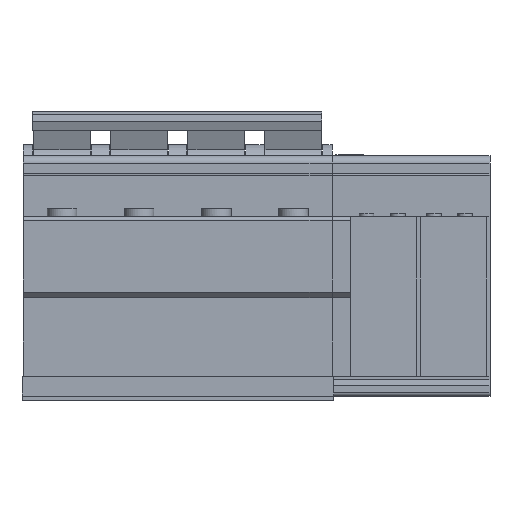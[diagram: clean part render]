
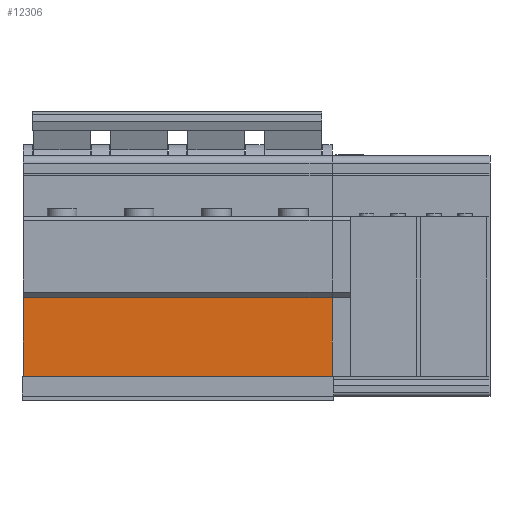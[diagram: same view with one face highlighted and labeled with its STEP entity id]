
A CAD part, front view. The second image highlights one B-rep face of the part: STEP entity #12306.
In plain terms, the highlighted planar face has unit normal (0, -1, 0).
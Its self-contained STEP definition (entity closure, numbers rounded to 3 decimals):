
#1287=FACE_OUTER_BOUND('',#2180,.T.);
#2180=EDGE_LOOP('',(#9442,#9443,#9444,#9445));
#3085=LINE('',#18937,#4298);
#3148=LINE('',#19263,#4361);
#3175=LINE('',#19489,#4388);
#3176=LINE('',#19490,#4389);
#4298=VECTOR('',#14847,10.);
#4361=VECTOR('',#15196,10.);
#4388=VECTOR('',#15479,10.);
#4389=VECTOR('',#15480,10.);
#5490=VERTEX_POINT('',#18933);
#5492=VERTEX_POINT('',#18936);
#5586=VERTEX_POINT('',#19209);
#5612=VERTEX_POINT('',#19261);
#6824=EDGE_CURVE('',#5492,#5490,#3085,.T.);
#6972=EDGE_CURVE('',#5612,#5586,#3148,.T.);
#7068=EDGE_CURVE('',#5490,#5586,#3175,.T.);
#7069=EDGE_CURVE('',#5492,#5612,#3176,.T.);
#9442=ORIENTED_EDGE('',*,*,#7068,.T.);
#9443=ORIENTED_EDGE('',*,*,#6972,.F.);
#9444=ORIENTED_EDGE('',*,*,#7069,.F.);
#9445=ORIENTED_EDGE('',*,*,#6824,.T.);
#11613=PLANE('',#13289);
#12306=ADVANCED_FACE('',(#1287),#11613,.T.);
#13289=AXIS2_PLACEMENT_3D('',#19488,#15477,#15478);
#14847=DIRECTION('',(0.,0.,-1.));
#15196=DIRECTION('',(0.,0.,-1.));
#15477=DIRECTION('center_axis',(0.,-1.,0.));
#15478=DIRECTION('ref_axis',(0.,0.,-1.));
#15479=DIRECTION('',(1.,0.,0.));
#15480=DIRECTION('',(1.,0.,0.));
#18933=CARTESIAN_POINT('',(-42.,-24.356,-59.196));
#18936=CARTESIAN_POINT('',(-42.,-24.356,-37.778));
#18937=CARTESIAN_POINT('',(-42.,-24.356,-37.778));
#19209=CARTESIAN_POINT('',(42.,-24.356,-59.196));
#19261=CARTESIAN_POINT('',(42.,-24.356,-37.778));
#19263=CARTESIAN_POINT('',(42.,-24.356,-37.778));
#19488=CARTESIAN_POINT('Origin',(0.,-24.356,-37.778));
#19489=CARTESIAN_POINT('',(5.25,-24.356,-59.196));
#19490=CARTESIAN_POINT('',(0.,-24.356,-37.778));
